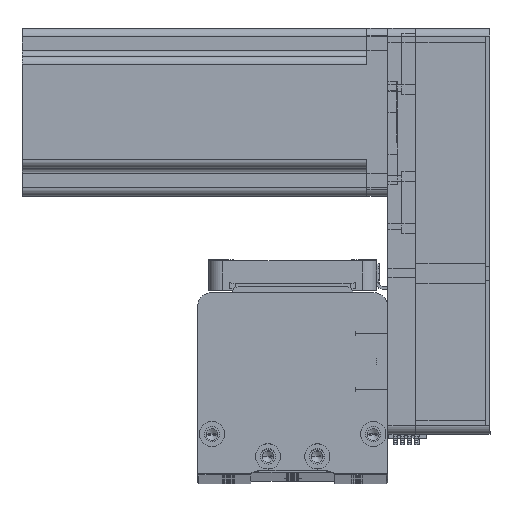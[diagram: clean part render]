
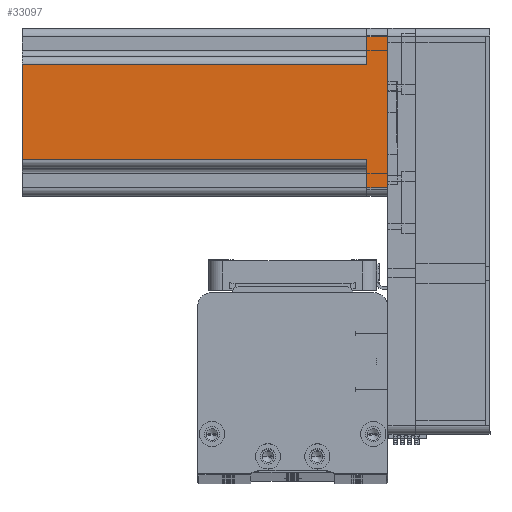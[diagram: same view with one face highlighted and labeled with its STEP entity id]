
A CAD part, top view. The second image highlights one B-rep face of the part: STEP entity #33097.
In plain terms, the highlighted planar face has unit normal (0, 0, 1) as drawn and (0, -1, 0) by its records, which use the part's own axes.
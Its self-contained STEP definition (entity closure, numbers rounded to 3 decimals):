
#4335 = ORIENTED_EDGE ( 'NONE', *, *, #46001, .T. ) ;
#4625 = CARTESIAN_POINT ( 'NONE',  ( 27., -30., 0. ) ) ;
#5004 = DIRECTION ( 'NONE',  ( 1., 0., 0. ) ) ;
#6406 = EDGE_LOOP ( 'NONE', ( #36182, #4335, #41784, #10469, #8181, #44542, #20918, #16783 ) ) ;
#6715 = DIRECTION ( 'NONE',  ( -1., 0., 0. ) ) ;
#6771 = VERTEX_POINT ( 'NONE', #26727 ) ;
#7047 = VECTOR ( 'NONE', #36756, 1000. ) ;
#7305 = VECTOR ( 'NONE', #6715, 1000. ) ;
#8181 = ORIENTED_EDGE ( 'NONE', *, *, #32138, .T. ) ;
#8438 = VECTOR ( 'NONE', #38514, 1000. ) ;
#8555 = AXIS2_PLACEMENT_3D ( 'NONE', #43332, #17667, #47623 ) ;
#8571 = CARTESIAN_POINT ( 'NONE',  ( -17., -30., 130.7 ) ) ;
#8969 = CARTESIAN_POINT ( 'NONE',  ( 27., -30., 130.7 ) ) ;
#10065 = VERTEX_POINT ( 'NONE', #43940 ) ;
#10128 = CARTESIAN_POINT ( 'NONE',  ( -27., -30., 7.5 ) ) ;
#10469 = ORIENTED_EDGE ( 'NONE', *, *, #48377, .T. ) ;
#11143 = CARTESIAN_POINT ( 'NONE',  ( -20., -30., 7.5 ) ) ;
#11584 = CARTESIAN_POINT ( 'NONE',  ( -27., -30., 130.7 ) ) ;
#14645 = LINE ( 'NONE', #15266, #34745 ) ;
#15266 = CARTESIAN_POINT ( 'NONE',  ( 30., -30., 0. ) ) ;
#16783 = ORIENTED_EDGE ( 'NONE', *, *, #31354, .T. ) ;
#17379 = VECTOR ( 'NONE', #47527, 1000. ) ;
#17667 = DIRECTION ( 'NONE',  ( 0., 1., 0. ) ) ;
#17942 = CARTESIAN_POINT ( 'NONE',  ( 30., -30., 130.7 ) ) ;
#18480 = CARTESIAN_POINT ( 'NONE',  ( 27., -30., 7.5 ) ) ;
#19044 = VERTEX_POINT ( 'NONE', #10128 ) ;
#19532 = VERTEX_POINT ( 'NONE', #18480 ) ;
#19814 = LINE ( 'NONE', #8571, #8438 ) ;
#20180 = LINE ( 'NONE', #11584, #30242 ) ;
#20918 = ORIENTED_EDGE ( 'NONE', *, *, #36194, .T. ) ;
#26727 = CARTESIAN_POINT ( 'NONE',  ( -27., -30., 0. ) ) ;
#28233 = LINE ( 'NONE', #30352, #49667 ) ;
#28475 = VERTEX_POINT ( 'NONE', #4625 ) ;
#28787 = LINE ( 'NONE', #8969, #17379 ) ;
#30242 = VECTOR ( 'NONE', #45833, 1000. ) ;
#30352 = CARTESIAN_POINT ( 'NONE',  ( 17., -30., 130.7 ) ) ;
#31354 = EDGE_CURVE ( 'NONE', #34330, #31591, #28233, .T. ) ;
#31591 = VERTEX_POINT ( 'NONE', #44885 ) ;
#32138 = EDGE_CURVE ( 'NONE', #6771, #28475, #14645, .T. ) ;
#32413 = CARTESIAN_POINT ( 'NONE',  ( 20., -30., 7.5 ) ) ;
#33097 = ADVANCED_FACE ( 'NONE', ( #35850 ), #43149, .F. ) ;
#34330 = VERTEX_POINT ( 'NONE', #53273 ) ;
#34745 = VECTOR ( 'NONE', #36576, 1000. ) ;
#35490 = LINE ( 'NONE', #17942, #45572 ) ;
#35850 = FACE_OUTER_BOUND ( 'NONE', #6406, .T. ) ;
#36182 = ORIENTED_EDGE ( 'NONE', *, *, #44108, .F. ) ;
#36194 = EDGE_CURVE ( 'NONE', #19532, #34330, #41475, .T. ) ;
#36312 = VERTEX_POINT ( 'NONE', #41742 ) ;
#36576 = DIRECTION ( 'NONE',  ( 1., 0., 0. ) ) ;
#36756 = DIRECTION ( 'NONE',  ( 1., 0., 0. ) ) ;
#38514 = DIRECTION ( 'NONE',  ( 0., 0., -1. ) ) ;
#41222 = LINE ( 'NONE', #11143, #7047 ) ;
#41475 = LINE ( 'NONE', #32413, #7305 ) ;
#41742 = CARTESIAN_POINT ( 'NONE',  ( -17., -30., 130.7 ) ) ;
#41784 = ORIENTED_EDGE ( 'NONE', *, *, #50496, .F. ) ;
#43149 = PLANE ( 'NONE',  #8555 ) ;
#43251 = DIRECTION ( 'NONE',  ( 0., 0., 1. ) ) ;
#43332 = CARTESIAN_POINT ( 'NONE',  ( 30., -30., 130.7 ) ) ;
#43940 = CARTESIAN_POINT ( 'NONE',  ( -17., -30., 7.5 ) ) ;
#44041 = EDGE_CURVE ( 'NONE', #28475, #19532, #28787, .T. ) ;
#44108 = EDGE_CURVE ( 'NONE', #36312, #31591, #35490, .T. ) ;
#44542 = ORIENTED_EDGE ( 'NONE', *, *, #44041, .T. ) ;
#44885 = CARTESIAN_POINT ( 'NONE',  ( 17., -30., 130.7 ) ) ;
#45572 = VECTOR ( 'NONE', #5004, 1000. ) ;
#45833 = DIRECTION ( 'NONE',  ( 0., 0., -1. ) ) ;
#46001 = EDGE_CURVE ( 'NONE', #36312, #10065, #19814, .T. ) ;
#47527 = DIRECTION ( 'NONE',  ( 0., 0., 1. ) ) ;
#47623 = DIRECTION ( 'NONE',  ( -1., 0., 0. ) ) ;
#48377 = EDGE_CURVE ( 'NONE', #19044, #6771, #20180, .T. ) ;
#49667 = VECTOR ( 'NONE', #43251, 1000. ) ;
#50496 = EDGE_CURVE ( 'NONE', #19044, #10065, #41222, .T. ) ;
#53273 = CARTESIAN_POINT ( 'NONE',  ( 17., -30., 7.5 ) ) ;
